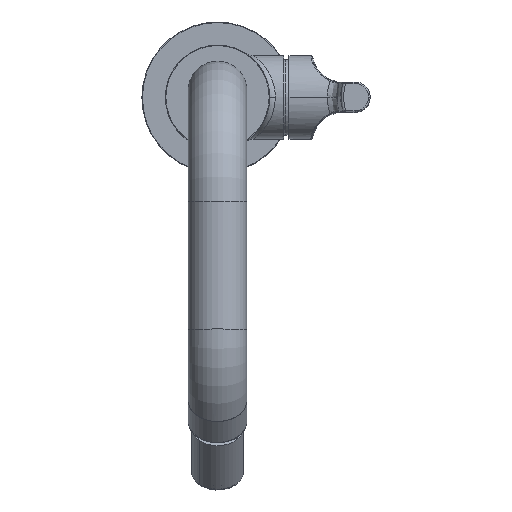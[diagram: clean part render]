
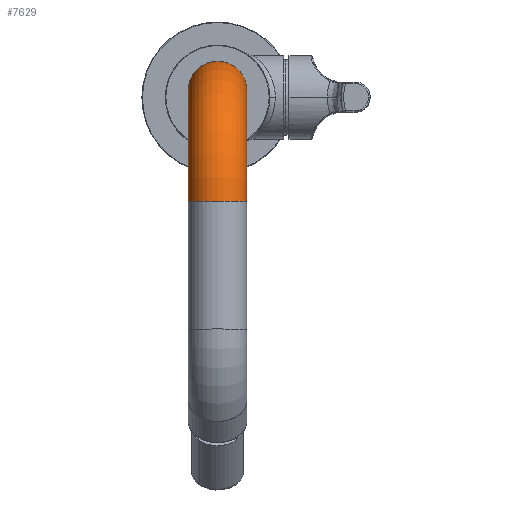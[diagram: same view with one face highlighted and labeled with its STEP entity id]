
A CAD part, top view. The second image highlights one B-rep face of the part: STEP entity #7629.
In plain terms, the highlighted toroidal (fillet/blend) face has major radius 42.5 mm and minor radius 11.25 mm.
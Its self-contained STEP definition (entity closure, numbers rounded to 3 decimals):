
#1017=CARTESIAN_POINT('',(11.25,-40.,126.));
#1018=DIRECTION('',(-1.,0.,0.));
#1019=DIRECTION('',(0.,0.,1.));
#1020=AXIS2_PLACEMENT_3D('',#1017,#1018,#1019);
#1259=CARTESIAN_POINT('',(-11.25,-40.,126.));
#1260=DIRECTION('',(1.,0.,0.));
#1261=DIRECTION('',(0.,1.,0.));
#1262=AXIS2_PLACEMENT_3D('',#1259,#1260,#1261);
#1592=CARTESIAN_POINT('',(0.,2.5,126.));
#1593=DIRECTION('',(0.,0.,-1.));
#1594=DIRECTION('',(-1.,0.,0.));
#1595=AXIS2_PLACEMENT_3D('',#1592,#1593,#1594);
#1597=CARTESIAN_POINT('',(0.,2.5,126.));
#1598=DIRECTION('',(0.,0.,-1.));
#1599=DIRECTION('',(0.,1.,0.));
#1600=AXIS2_PLACEMENT_3D('',#1597,#1598,#1599);
#1602=CARTESIAN_POINT('',(0.,-40.,168.5));
#1603=DIRECTION('',(0.,-1.,0.));
#1604=DIRECTION('',(1.,0.,0.));
#1605=AXIS2_PLACEMENT_3D('',#1602,#1603,#1604);
#1607=CARTESIAN_POINT('',(0.,-40.,168.5));
#1608=DIRECTION('',(0.,-1.,0.));
#1609=DIRECTION('',(0.,0.,1.));
#1610=AXIS2_PLACEMENT_3D('',#1607,#1608,#1609);
#4994=CARTESIAN_POINT('',(-11.25,2.5,126.));
#4995=VERTEX_POINT('',#4994);
#4996=CARTESIAN_POINT('',(-11.25,-40.,168.5));
#4997=VERTEX_POINT('',#4996);
#5009=CARTESIAN_POINT('',(11.25,-40.,168.5));
#5010=VERTEX_POINT('',#5009);
#5011=CARTESIAN_POINT('',(11.25,2.5,126.));
#5012=VERTEX_POINT('',#5011);
#5026=CARTESIAN_POINT('',(0.,-40.,179.75));
#5027=VERTEX_POINT('',#5026);
#5028=CARTESIAN_POINT('',(0.,13.75,126.));
#5029=VERTEX_POINT('',#5028);
#7614=CARTESIAN_POINT('',(0.,-40.,126.));
#7615=DIRECTION('',(1.,0.,0.));
#7616=DIRECTION('',(0.,-1.,0.));
#7617=AXIS2_PLACEMENT_3D('',#7614,#7615,#7616);
#7618=TOROIDAL_SURFACE('',#7617,42.5,11.25);
#7619=ORIENTED_EDGE('',*,*,#6214,.T.);
#7620=ORIENTED_EDGE('',*,*,#6212,.T.);
#7621=ORIENTED_EDGE('',*,*,#6243,.F.);
#7623=ORIENTED_EDGE('',*,*,#7622,.T.);
#7625=ORIENTED_EDGE('',*,*,#7624,.T.);
#7626=ORIENTED_EDGE('',*,*,#6614,.F.);
#7627=EDGE_LOOP('',(#7619,#7620,#7621,#7623,#7625,#7626));
#7628=FACE_OUTER_BOUND('',#7627,.F.);
#1021=CIRCLE('',#1020,42.5);
#1263=CIRCLE('',#1262,42.5);
#1596=CIRCLE('',#1595,11.25);
#1601=CIRCLE('',#1600,11.25);
#1606=CIRCLE('',#1605,11.25);
#1611=CIRCLE('',#1610,11.25);
#6212=EDGE_CURVE('',#5029,#5012,#1601,.T.);
#6214=EDGE_CURVE('',#4995,#5029,#1596,.T.);
#6243=EDGE_CURVE('',#5010,#5012,#1021,.T.);
#6614=EDGE_CURVE('',#4995,#4997,#1263,.T.);
#7622=EDGE_CURVE('',#5010,#5027,#1606,.T.);
#7624=EDGE_CURVE('',#5027,#4997,#1611,.T.);
#7629=ADVANCED_FACE('',(#7628),#7618,.T.);
